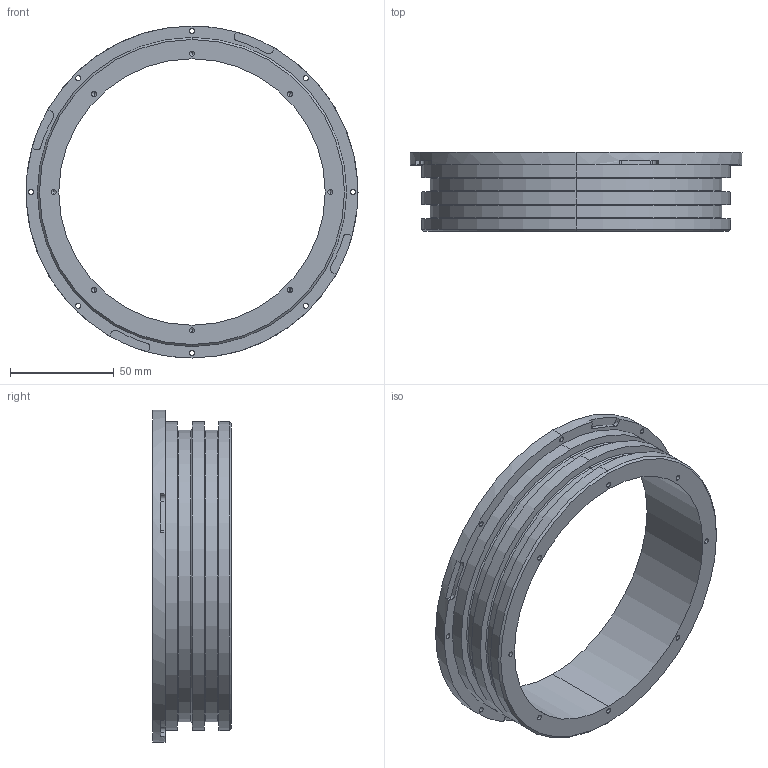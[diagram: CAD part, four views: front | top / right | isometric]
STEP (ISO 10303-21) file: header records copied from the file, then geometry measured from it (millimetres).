
FILE_DESCRIPTION (( 'STEP AP203' ), '1' );
FILE_NAME ('160通用法兰.STEP', '2019-07-19T02:59:20', ( '' ), ( '' ), 'SwSTEP 2.0', 'SolidWorks 2016', '' );
FILE_SCHEMA (( 'CONFIG_CONTROL_DESIGN' ));
Length unit declared in the file: millimetre
Products named in the file (1): 160籵蚚楊擘
Bounding box: 160 x 38 x 160 mm (x, y, z)
Volume: 153095.7 mm3; surface area: 57421.5 mm2
Topology: 1 solids, 1 shells, 115 faces, 288 edges, 174 vertices
Faces by surface type: cylinder 64, plane 21, cone 18, torus 12
Entity records: 3485 total; most frequent: DIRECTION 666, CARTESIAN_POINT 562, ORIENTED_EDGE 544, AXIS2_PLACEMENT_3D 278, EDGE_CURVE 272, VERTEX_POINT 174, CIRCLE 162, EDGE_LOOP 148
